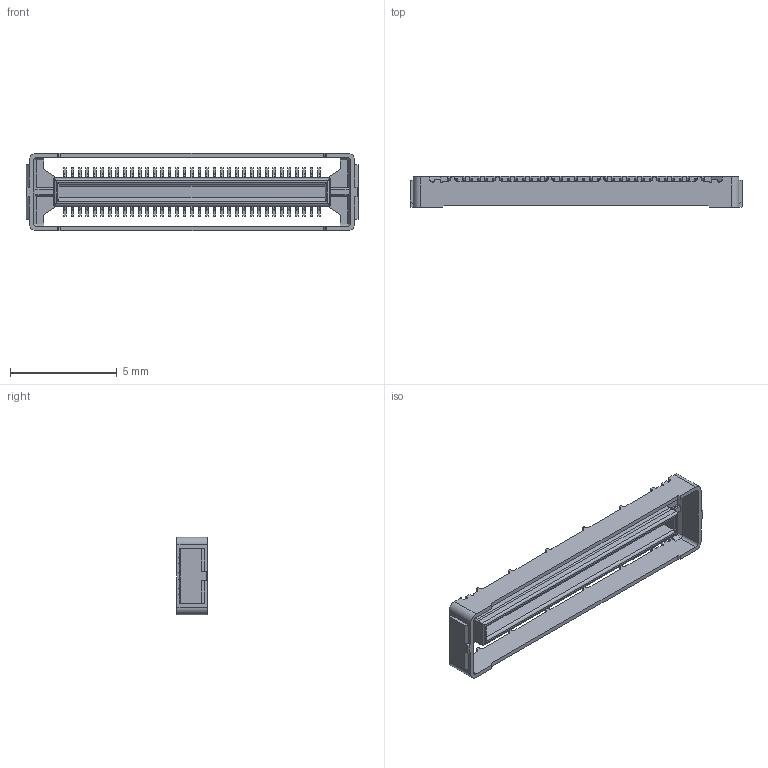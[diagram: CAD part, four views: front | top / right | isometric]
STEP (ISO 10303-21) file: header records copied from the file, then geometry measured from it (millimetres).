
FILE_DESCRIPTION (( 'STEP AP203' ), '1' );
FILE_NAME ('21003-070EC NOVASTACK 35-HDH PLUG ASSEMBLY STEP R4.STEP', '2024-05-15T05:02:57', ( '' ), ( '' ), 'SwSTEP 2.0', 'SolidWorks 2023', '' );
FILE_SCHEMA (( 'CONFIG_CONTROL_DESIGN' ));
Length unit declared in the file: millimetre
Products named in the file (1): 21003-070EC NOVASTACK 35-HDH PLUG ASSEMBLY STEP R4
Bounding box: 15.55 x 1.45 x 3.64 mm (x, y, z)
Volume: 23 mm3; surface area: 214.8 mm2
Topology: 1 solids, 1 shells, 1235 faces, 3470 edges, 2304 vertices
Faces by surface type: plane 837, cylinder 394, cone 4
Entity records: 39821 total; most frequent: CARTESIAN_POINT 7222, ORIENTED_EDGE 6940, DIRECTION 6638, EDGE_CURVE 3470, LINE 2670, VECTOR 2670, VERTEX_POINT 2304, AXIS2_PLACEMENT_3D 1984
